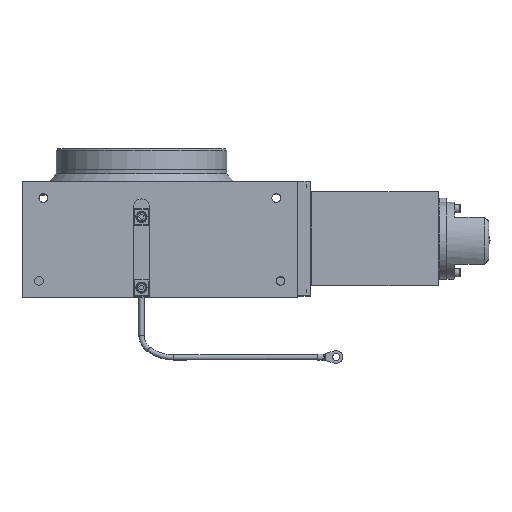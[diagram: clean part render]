
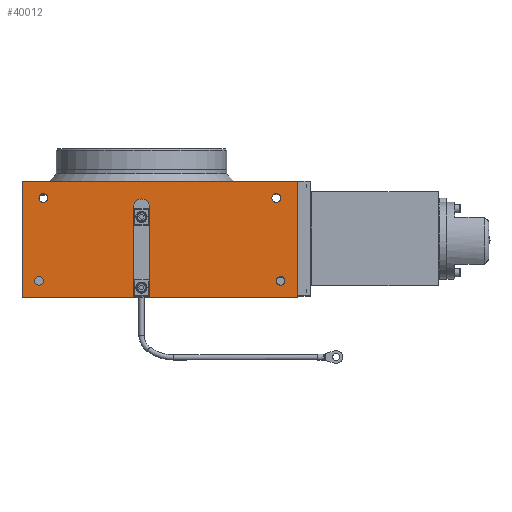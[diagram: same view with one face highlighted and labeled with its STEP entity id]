
A CAD part, front view. The second image highlights one B-rep face of the part: STEP entity #40012.
In plain terms, the highlighted planar face has unit normal (0, -1, 0).
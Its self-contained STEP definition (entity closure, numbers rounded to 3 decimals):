
#295 = CARTESIAN_POINT ( 'NONE',  ( -140., -140., 137. ) ) ;
#585 = CARTESIAN_POINT ( 'NONE',  ( -120., -140., 14.9 ) ) ;
#793 = CIRCLE ( 'NONE', #6213, 5.1 ) ;
#1556 = FACE_BOUND ( 'NONE', #16435, .T. ) ;
#1600 = ORIENTED_EDGE ( 'NONE', *, *, #39148, .F. ) ;
#1613 = DIRECTION ( 'NONE',  ( 0., 0., 1. ) ) ;
#1760 = AXIS2_PLACEMENT_3D ( 'NONE', #38248, #46211, #38949 ) ;
#3321 = CARTESIAN_POINT ( 'NONE',  ( -140., -140., 0. ) ) ;
#4171 = VECTOR ( 'NONE', #13089, 1000. ) ;
#4339 = LINE ( 'NONE', #33064, #21099 ) ;
#4409 = ORIENTED_EDGE ( 'NONE', *, *, #12587, .T. ) ;
#4811 = CIRCLE ( 'NONE', #33322, 9. ) ;
#4903 = CARTESIAN_POINT ( 'NONE',  ( 158., -140., 111.9 ) ) ;
#5287 = DIRECTION ( 'NONE',  ( 0., -1., 0. ) ) ;
#5819 = ORIENTED_EDGE ( 'NONE', *, *, #19452, .F. ) ;
#6050 = VERTEX_POINT ( 'NONE', #12573 ) ;
#6143 = EDGE_CURVE ( 'NONE', #37871, #6050, #17354, .T. ) ;
#6213 = AXIS2_PLACEMENT_3D ( 'NONE', #21557, #7049, #31926 ) ;
#6435 = CARTESIAN_POINT ( 'NONE',  ( 9., -140., 0. ) ) ;
#6884 = ORIENTED_EDGE ( 'NONE', *, *, #47682, .F. ) ;
#7049 = DIRECTION ( 'NONE',  ( 0., -1., 0. ) ) ;
#8524 = EDGE_CURVE ( 'NONE', #44970, #44970, #45404, .T. ) ;
#8544 = ORIENTED_EDGE ( 'NONE', *, *, #36017, .F. ) ;
#8994 = CARTESIAN_POINT ( 'NONE',  ( -115., -140., 111.9 ) ) ;
#10970 = VERTEX_POINT ( 'NONE', #585 ) ;
#11152 = VERTEX_POINT ( 'NONE', #29179 ) ;
#12573 = CARTESIAN_POINT ( 'NONE',  ( 183., -140., 0. ) ) ;
#12587 = EDGE_CURVE ( 'NONE', #21332, #11152, #27719, .T. ) ;
#12670 = FACE_BOUND ( 'NONE', #12795, .T. ) ;
#12795 = EDGE_LOOP ( 'NONE', ( #13914 ) ) ;
#13089 = DIRECTION ( 'NONE',  ( 1., 0., 0. ) ) ;
#13558 = CARTESIAN_POINT ( 'NONE',  ( -9., -140., 107. ) ) ;
#13914 = ORIENTED_EDGE ( 'NONE', *, *, #32879, .F. ) ;
#14603 = AXIS2_PLACEMENT_3D ( 'NONE', #24073, #38778, #35155 ) ;
#14737 = DIRECTION ( 'NONE',  ( 0., 0., -1. ) ) ;
#15125 = CARTESIAN_POINT ( 'NONE',  ( 163., -140., 20. ) ) ;
#15795 = EDGE_CURVE ( 'NONE', #27887, #27226, #4339, .T. ) ;
#16435 = EDGE_LOOP ( 'NONE', ( #8544 ) ) ;
#16923 = VERTEX_POINT ( 'NONE', #34762 ) ;
#17338 = LINE ( 'NONE', #3321, #34466 ) ;
#17354 = LINE ( 'NONE', #43145, #28654 ) ;
#17497 = CARTESIAN_POINT ( 'NONE',  ( -140., -140., 137. ) ) ;
#18984 = DIRECTION ( 'NONE',  ( 0., 0., -1. ) ) ;
#19127 = DIRECTION ( 'NONE',  ( 1., 0., 0. ) ) ;
#19452 = EDGE_CURVE ( 'NONE', #21332, #37871, #34058, .T. ) ;
#19674 = VERTEX_POINT ( 'NONE', #27292 ) ;
#20092 = CARTESIAN_POINT ( 'NONE',  ( 9., -140., 0. ) ) ;
#20357 = DIRECTION ( 'NONE',  ( 0., 0., -1. ) ) ;
#20585 = AXIS2_PLACEMENT_3D ( 'NONE', #15125, #40928, #18984 ) ;
#21099 = VECTOR ( 'NONE', #14737, 1000. ) ;
#21332 = VERTEX_POINT ( 'NONE', #17497 ) ;
#21373 = ORIENTED_EDGE ( 'NONE', *, *, #15795, .F. ) ;
#21557 = CARTESIAN_POINT ( 'NONE',  ( -115., -140., 117. ) ) ;
#22814 = CARTESIAN_POINT ( 'NONE',  ( -9., -140., 0. ) ) ;
#22950 = EDGE_LOOP ( 'NONE', ( #29442 ) ) ;
#23307 = CARTESIAN_POINT ( 'NONE',  ( 183., -140., 137. ) ) ;
#24073 = CARTESIAN_POINT ( 'NONE',  ( -120., -140., 20. ) ) ;
#24444 = CARTESIAN_POINT ( 'NONE',  ( 0., -140., 107. ) ) ;
#25136 = EDGE_LOOP ( 'NONE', ( #6884 ) ) ;
#26694 = ORIENTED_EDGE ( 'NONE', *, *, #39863, .F. ) ;
#26738 = CIRCLE ( 'NONE', #20585, 5.1 ) ;
#26908 = CIRCLE ( 'NONE', #14603, 5.1 ) ;
#27226 = VERTEX_POINT ( 'NONE', #22814 ) ;
#27292 = CARTESIAN_POINT ( 'NONE',  ( 9., -140., 107. ) ) ;
#27719 = LINE ( 'NONE', #30867, #28676 ) ;
#27829 = VERTEX_POINT ( 'NONE', #20092 ) ;
#27887 = VERTEX_POINT ( 'NONE', #13558 ) ;
#27948 = VECTOR ( 'NONE', #1613, 1000. ) ;
#27951 = CARTESIAN_POINT ( 'NONE',  ( 158., -140., 117. ) ) ;
#28163 = DIRECTION ( 'NONE',  ( 1., 0., 0. ) ) ;
#28654 = VECTOR ( 'NONE', #39757, 1000. ) ;
#28676 = VECTOR ( 'NONE', #31577, 1000. ) ;
#29179 = CARTESIAN_POINT ( 'NONE',  ( -140., -140., 0. ) ) ;
#29442 = ORIENTED_EDGE ( 'NONE', *, *, #8524, .F. ) ;
#30342 = EDGE_CURVE ( 'NONE', #27829, #6050, #17338, .T. ) ;
#30485 = VERTEX_POINT ( 'NONE', #8994 ) ;
#30826 = ORIENTED_EDGE ( 'NONE', *, *, #30342, .T. ) ;
#30867 = CARTESIAN_POINT ( 'NONE',  ( -140., -140., 137. ) ) ;
#30946 = CARTESIAN_POINT ( 'NONE',  ( -140., -140., 0. ) ) ;
#31232 = PLANE ( 'NONE',  #1760 ) ;
#31360 = ORIENTED_EDGE ( 'NONE', *, *, #6143, .F. ) ;
#31424 = LINE ( 'NONE', #30946, #4171 ) ;
#31577 = DIRECTION ( 'NONE',  ( 0., 0., -1. ) ) ;
#31926 = DIRECTION ( 'NONE',  ( 0., 0., -1. ) ) ;
#32879 = EDGE_CURVE ( 'NONE', #10970, #10970, #26908, .T. ) ;
#33064 = CARTESIAN_POINT ( 'NONE',  ( -9., -140., 0. ) ) ;
#33322 = AXIS2_PLACEMENT_3D ( 'NONE', #24444, #42535, #20357 ) ;
#33822 = AXIS2_PLACEMENT_3D ( 'NONE', #27951, #5287, #45592 ) ;
#34058 = LINE ( 'NONE', #295, #43644 ) ;
#34466 = VECTOR ( 'NONE', #28163, 1000. ) ;
#34762 = CARTESIAN_POINT ( 'NONE',  ( 163., -140., 14.9 ) ) ;
#34855 = FACE_BOUND ( 'NONE', #22950, .T. ) ;
#35146 = LINE ( 'NONE', #6435, #27948 ) ;
#35155 = DIRECTION ( 'NONE',  ( 0., 0., -1. ) ) ;
#36017 = EDGE_CURVE ( 'NONE', #30485, #30485, #793, .T. ) ;
#37000 = EDGE_LOOP ( 'NONE', ( #39019, #21373, #1600, #26694, #30826, #31360, #5819, #4409 ) ) ;
#37871 = VERTEX_POINT ( 'NONE', #23307 ) ;
#38248 = CARTESIAN_POINT ( 'NONE',  ( -140., -140., 137. ) ) ;
#38778 = DIRECTION ( 'NONE',  ( 0., -1., 0. ) ) ;
#38949 = DIRECTION ( 'NONE',  ( 0., 0., 1. ) ) ;
#39019 = ORIENTED_EDGE ( 'NONE', *, *, #41413, .T. ) ;
#39148 = EDGE_CURVE ( 'NONE', #19674, #27887, #4811, .T. ) ;
#39757 = DIRECTION ( 'NONE',  ( 0., 0., -1. ) ) ;
#39863 = EDGE_CURVE ( 'NONE', #27829, #19674, #35146, .T. ) ;
#40012 = ADVANCED_FACE ( 'NONE', ( #34855, #45727, #1556, #12670, #42105 ), #31232, .F. ) ;
#40928 = DIRECTION ( 'NONE',  ( 0., -1., 0. ) ) ;
#41413 = EDGE_CURVE ( 'NONE', #11152, #27226, #31424, .T. ) ;
#42105 = FACE_OUTER_BOUND ( 'NONE', #37000, .T. ) ;
#42535 = DIRECTION ( 'NONE',  ( 0., -1., 0. ) ) ;
#43145 = CARTESIAN_POINT ( 'NONE',  ( 183., -140., 137. ) ) ;
#43644 = VECTOR ( 'NONE', #19127, 1000. ) ;
#44970 = VERTEX_POINT ( 'NONE', #4903 ) ;
#45404 = CIRCLE ( 'NONE', #33822, 5.1 ) ;
#45592 = DIRECTION ( 'NONE',  ( 0., 0., -1. ) ) ;
#45727 = FACE_BOUND ( 'NONE', #25136, .T. ) ;
#46211 = DIRECTION ( 'NONE',  ( 0., 1., 0. ) ) ;
#47682 = EDGE_CURVE ( 'NONE', #16923, #16923, #26738, .T. ) ;
